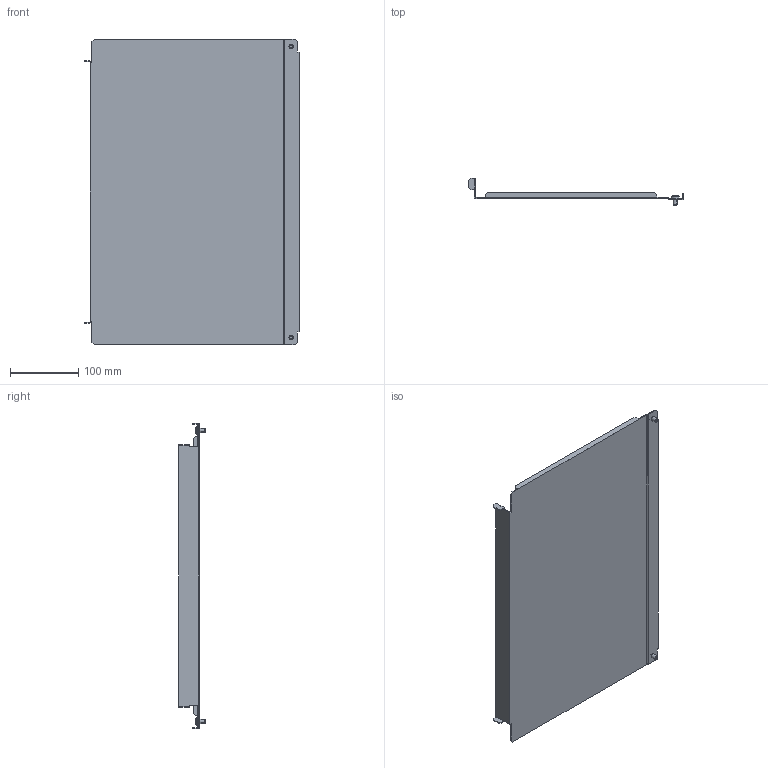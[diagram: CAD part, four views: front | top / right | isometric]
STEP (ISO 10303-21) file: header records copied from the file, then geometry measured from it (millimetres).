
FILE_DESCRIPTION (( 'STEP AP214' ), '1' );
FILE_NAME ('FO-00-PVHC-050 Ïåðåãîðîäêà àïïàðàòíîãî îòñåêà áîêîâàÿ âåðòèêàëüíàÿ ñïëîøíàÿ âûñîòà 500 ìì.STEP', '2025-08-18T06:39:00', ( '' ), ( '' ), 'SwSTEP 2.0', 'SolidWorks 2023', '' );
FILE_SCHEMA (( 'AUTOMOTIVE_DESIGN' ));
Length unit declared in the file: millimetre
Products named in the file (1): FO-00-PVHC-050 Перегородка аппаратного отсека боковая вертикальная сплошная высота 500 мм
Bounding box: 312.84 x 38.98 x 447 mm (x, y, z)
Volume: 231693.2 mm3; surface area: 310527.3 mm2
Topology: 1 solids, 1 shells, 130 faces, 360 edges, 236 vertices
Faces by surface type: plane 76, cylinder 42, torus 4, cone 4, sphere 4
Entity records: 4207 total; most frequent: CARTESIAN_POINT 861, ORIENTED_EDGE 720, DIRECTION 658, EDGE_CURVE 360, LINE 256, VECTOR 256, VERTEX_POINT 236, AXIS2_PLACEMENT_3D 201
